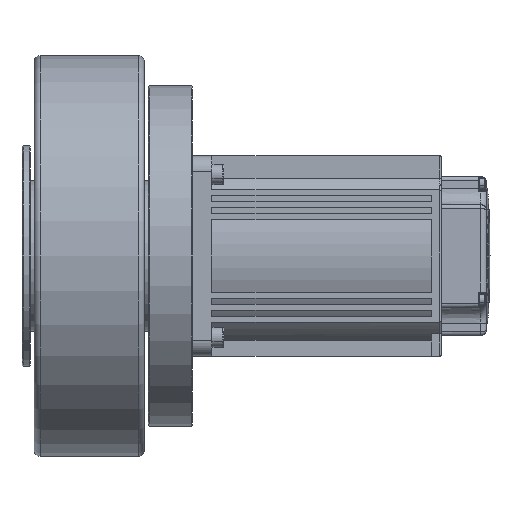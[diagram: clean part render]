
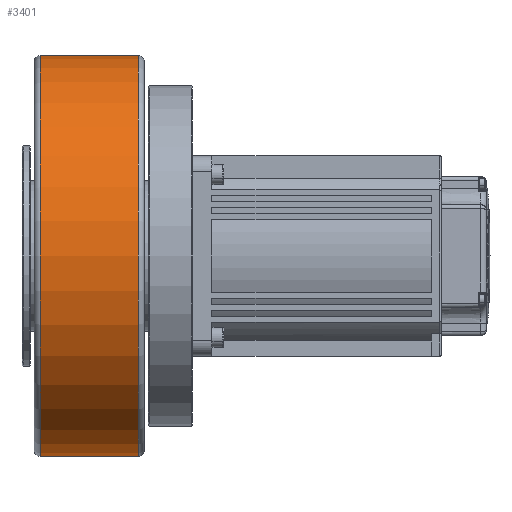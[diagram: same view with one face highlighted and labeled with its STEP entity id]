
A CAD part, front view. The second image highlights one B-rep face of the part: STEP entity #3401.
In plain terms, the highlighted cylindrical face has radius 100 mm (diameter 200 mm), a partial arc.
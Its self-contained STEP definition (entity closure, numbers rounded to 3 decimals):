
#590=CARTESIAN_POINT('',(52.,0.,0.));
#591=DIRECTION('',(-1.,0.,0.));
#592=DIRECTION('',(0.,0.,-1.));
#593=AXIS2_PLACEMENT_3D('',#590,#591,#592);
#595=DIRECTION('',(-1.,0.,0.));
#596=VECTOR('',#595,49.);
#597=CARTESIAN_POINT('',(52.,0.,-100.));
#598=LINE('',#597,#596);
#599=DIRECTION('',(-1.,0.,0.));
#600=VECTOR('',#599,49.);
#601=CARTESIAN_POINT('',(52.,0.,100.));
#602=LINE('',#601,#600);
#618=CARTESIAN_POINT('',(3.,0.,0.));
#619=DIRECTION('',(1.,0.,0.));
#620=DIRECTION('',(0.,0.,1.));
#621=AXIS2_PLACEMENT_3D('',#618,#619,#620);
#2434=CARTESIAN_POINT('',(52.,0.,100.));
#2435=VERTEX_POINT('',#2434);
#2436=CARTESIAN_POINT('',(52.,0.,-100.));
#2437=VERTEX_POINT('',#2436);
#2438=CARTESIAN_POINT('',(3.,0.,-100.));
#2439=VERTEX_POINT('',#2438);
#2440=CARTESIAN_POINT('',(3.,0.,100.));
#2441=VERTEX_POINT('',#2440);
#3387=CARTESIAN_POINT('',(0.,0.,0.));
#3388=DIRECTION('',(-1.,0.,0.));
#3389=DIRECTION('',(0.,0.,1.));
#3390=AXIS2_PLACEMENT_3D('',#3387,#3388,#3389);
#3391=CYLINDRICAL_SURFACE('',#3390,100.);
#3393=ORIENTED_EDGE('',*,*,#3392,.T.);
#3395=ORIENTED_EDGE('',*,*,#3394,.F.);
#3397=ORIENTED_EDGE('',*,*,#3396,.F.);
#3398=ORIENTED_EDGE('',*,*,#3380,.F.);
#3399=EDGE_LOOP('',(#3393,#3395,#3397,#3398));
#3400=FACE_OUTER_BOUND('',#3399,.F.);
#3401=ADVANCED_FACE('',(#3400),#3391,.T.);
#594=CIRCLE('',#593,100.);
#622=CIRCLE('',#621,100.);
#3380=EDGE_CURVE('',#2437,#2435,#594,.T.);
#3392=EDGE_CURVE('',#2437,#2439,#598,.T.);
#3394=EDGE_CURVE('',#2441,#2439,#622,.T.);
#3396=EDGE_CURVE('',#2435,#2441,#602,.T.);
